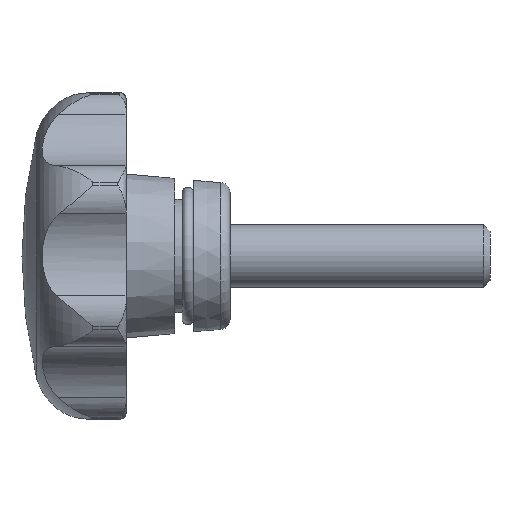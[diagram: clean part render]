
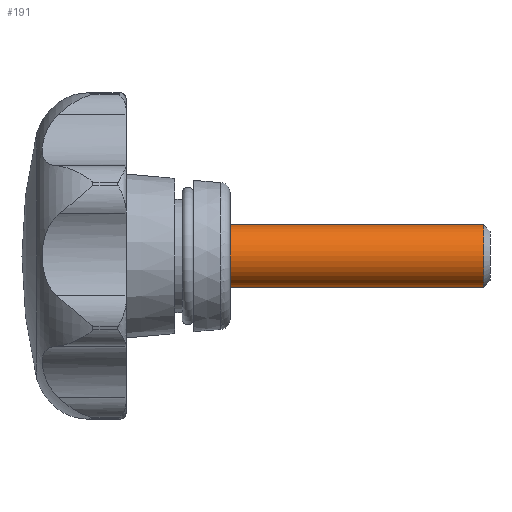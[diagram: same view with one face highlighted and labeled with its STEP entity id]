
A CAD part, left-side view. The second image highlights one B-rep face of the part: STEP entity #191.
In plain terms, the highlighted cylindrical face has radius 3 mm (diameter 6 mm), a full revolution.
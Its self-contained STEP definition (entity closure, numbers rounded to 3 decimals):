
#191 = ADVANCED_FACE( '', ( #399, #400 ), #401, .T. );
#399 = FACE_OUTER_BOUND( '', #793, .T. );
#400 = FACE_OUTER_BOUND( '', #794, .T. );
#401 = CYLINDRICAL_SURFACE( '', #795, 3. );
#793 = EDGE_LOOP( '', ( #1279 ) );
#794 = EDGE_LOOP( '', ( #1280 ) );
#795 = AXIS2_PLACEMENT_3D( '', #1281, #1282, #1283 );
#1279 = ORIENTED_EDGE( '', *, *, #2552, .F. );
#1280 = ORIENTED_EDGE( '', *, *, #2553, .T. );
#1281 = CARTESIAN_POINT( '', ( 0., -25., 0. ) );
#1282 = DIRECTION( '', ( 0., 1., 0. ) );
#1283 = DIRECTION( '', ( 0., 0., -1. ) );
#2552 = EDGE_CURVE( '', #3036, #3036, #3037, .T. );
#2553 = EDGE_CURVE( '', #3038, #3038, #3039, .T. );
#3036 = VERTEX_POINT( '', #3894 );
#3037 = CIRCLE( '', #3895, 3. );
#3038 = VERTEX_POINT( '', #3896 );
#3039 = CIRCLE( '', #3897, 3. );
#3894 = CARTESIAN_POINT( '', ( 0., -24.387, -3. ) );
#3895 = AXIS2_PLACEMENT_3D( '', #5757, #5758, #5759 );
#3896 = CARTESIAN_POINT( '', ( 0., 0., -3. ) );
#3897 = AXIS2_PLACEMENT_3D( '', #5760, #5761, #5762 );
#5757 = CARTESIAN_POINT( '', ( 0., -24.387, 0. ) );
#5758 = DIRECTION( '', ( 0., -1., 0. ) );
#5759 = DIRECTION( '', ( 0., 0., -1. ) );
#5760 = CARTESIAN_POINT( '', ( 0., 0., 0. ) );
#5761 = DIRECTION( '', ( 0., -1., 0. ) );
#5762 = DIRECTION( '', ( 0., 0., -1. ) );
